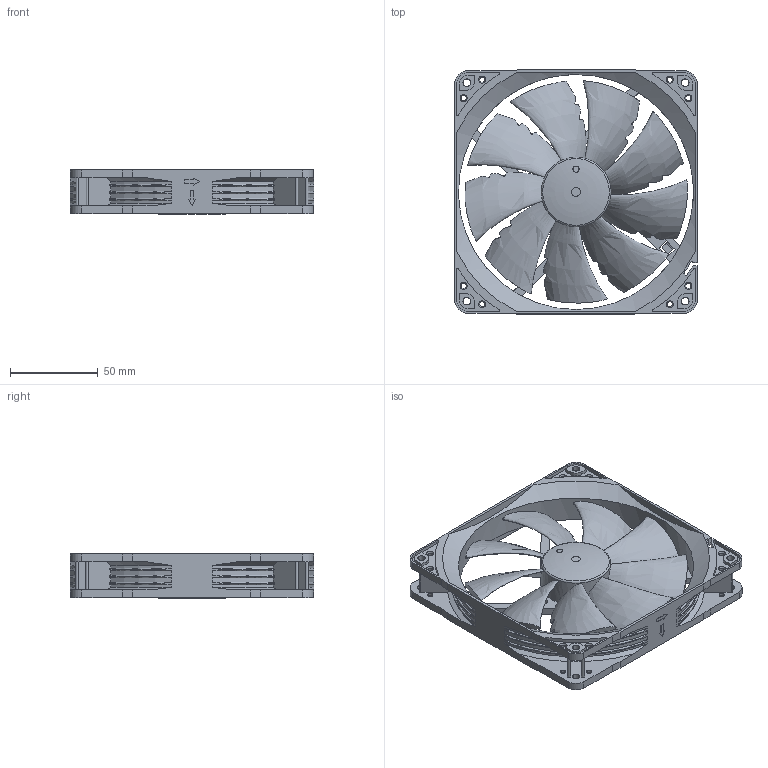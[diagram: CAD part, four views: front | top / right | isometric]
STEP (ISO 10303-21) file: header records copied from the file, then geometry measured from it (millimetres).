
FILE_DESCRIPTION(/* description */ ('140mm Desk Fan'),/* implementation_level */ '2;1');
FILE_NAME(/* name */ 'NF-P14s_redux_Public-CAD',/* time_stamp */ '2026-04-10T09:11:30+02:00',/* author */ ('Andreas'),/* organization */ ('Rascom'),/* preprocessor_version */ 'ST-DEVELOPER v18.102',/* originating_system */ 'Solid Edge',/* authorisation */ 'Unknown');
FILE_SCHEMA (('AUTOMOTIVE_DESIGN {1 0 10303 214 3 1 1}'));
Length unit declared in the file: millimetre
Products named in the file (4): NF-P14s_redux_Public-CAD; NF-P14s_redux_frame-public; NF-P14_redux_impeller-public; Fan-Label-D38mm-Redux
Assembly tree (3 placements, depth 2):
  NF-P14s_redux_Public-CAD
    NF-P14s_redux_frame-public
    NF-P14_redux_impeller-public
    Fan-Label-D38mm-Redux
Bounding box: 139 x 139 x 25.3 mm (x, y, z)
Volume: 115117 mm3; surface area: 83074.2 mm2
Topology: 3 solids, 3 shells, 962 faces, 2749 edges, 1828 vertices
Faces by surface type: plane 410, cylinder 364, torus 94, cone 62, bspline 32
Full cylindrical faces by diameter (mm): 3.5 x1, 38 x1, 39.6 x1, 134 x1
Entity records: 45093 total; most frequent: CARTESIAN_POINT 20458, ORIENTED_EDGE 5466, DIRECTION 4459, EDGE_CURVE 2733, VERTEX_POINT 1820, AXIS2_PLACEMENT_3D 1610, LINE 1239, VECTOR 1239
